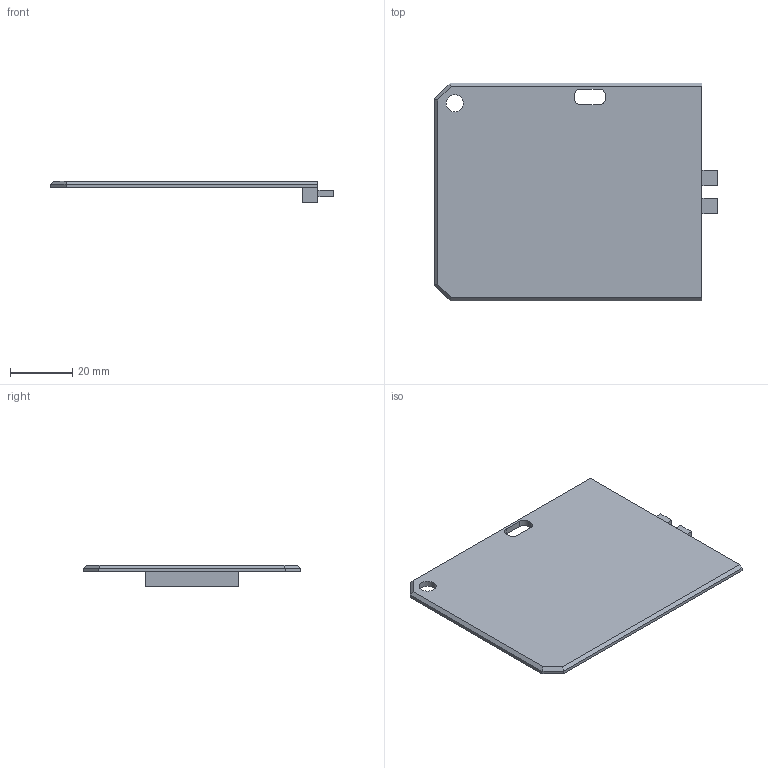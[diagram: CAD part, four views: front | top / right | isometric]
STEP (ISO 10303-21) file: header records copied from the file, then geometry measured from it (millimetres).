
FILE_DESCRIPTION(/* description */ (''),/* implementation_level */ '2;1');
FILE_NAME(/* name */ '[Tutup Belakang] IoT Box Suhu v2.stp',/* time_stamp */ '2025-03-15T21:49:19+07:00',/* author */ ('ASUS'),/* organization */ (''),/* preprocessor_version */ 'ST-DEVELOPER v19.2',/* originating_system */ 'Autodesk Inventor 2023',/* authorisation */ '');
FILE_SCHEMA (('AUTOMOTIVE_DESIGN { 1 0 10303 214 3 1 1 }'));
Length unit declared in the file: millimetre
Products named in the file (1): Tutup Box v2
Bounding box: 91 x 70 x 7 mm (x, y, z)
Volume: 12581.8 mm3; surface area: 12899.3 mm2
Topology: 1 solids, 1 shells, 36 faces, 92 edges, 61 vertices
Faces by surface type: plane 31, cylinder 5
Full cylindrical faces by diameter (mm): 5.5 x1
Entity records: 1136 total; most frequent: CARTESIAN_POINT 190, ORIENTED_EDGE 184, DIRECTION 176, EDGE_CURVE 92, LINE 82, VECTOR 82, VERTEX_POINT 60, AXIS2_PLACEMENT_3D 47
